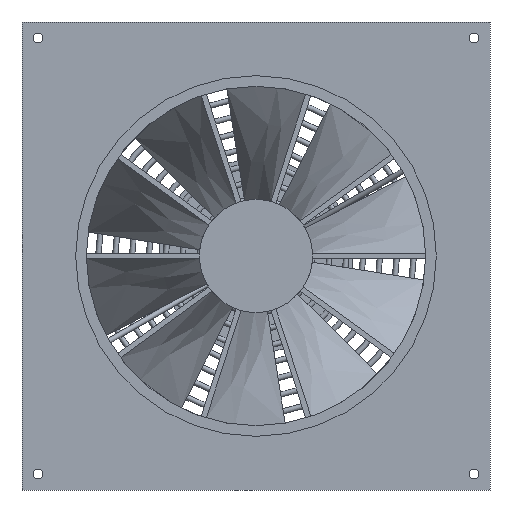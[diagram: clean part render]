
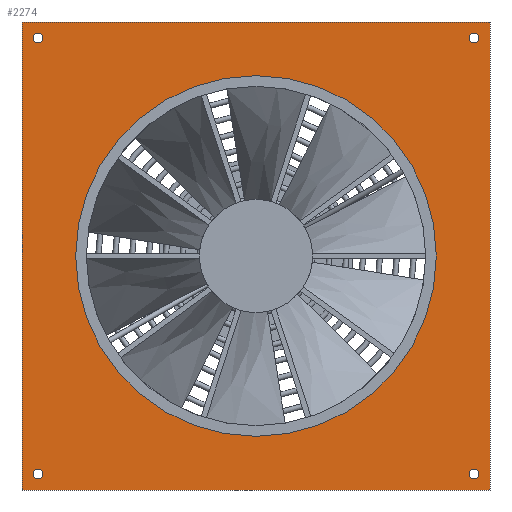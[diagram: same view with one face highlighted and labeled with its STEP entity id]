
A CAD part, front view. The second image highlights one B-rep face of the part: STEP entity #2274.
In plain terms, the highlighted planar face has unit normal (0, -1, 0).
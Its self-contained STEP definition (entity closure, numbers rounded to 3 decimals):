
#135=LINE('',#4995,#273);
#137=LINE('',#5002,#275);
#139=LINE('',#5008,#277);
#140=LINE('',#5010,#278);
#273=VECTOR('',#2845,10.);
#275=VECTOR('',#2853,10.);
#277=VECTOR('',#2859,10.);
#278=VECTOR('',#2862,10.);
#394=PLANE('',#2448);
#560=FACE_BOUND('',#855,.T.);
#561=FACE_BOUND('',#856,.T.);
#562=FACE_BOUND('',#857,.T.);
#563=FACE_BOUND('',#858,.T.);
#564=FACE_BOUND('',#859,.T.);
#688=FACE_OUTER_BOUND('',#854,.T.);
#854=EDGE_LOOP('',(#2125,#2126,#2127,#2128));
#855=EDGE_LOOP('',(#2129));
#856=EDGE_LOOP('',(#2130));
#857=EDGE_LOOP('',(#2131));
#858=EDGE_LOOP('',(#2132));
#859=EDGE_LOOP('',(#2133));
#931=CIRCLE('',#2437,4.5);
#932=CIRCLE('',#2439,4.5);
#933=CIRCLE('',#2441,4.5);
#934=CIRCLE('',#2443,4.5);
#936=CIRCLE('',#2446,169.5);
#1132=VERTEX_POINT('',#4992);
#1133=VERTEX_POINT('',#4994);
#1135=VERTEX_POINT('',#5000);
#1137=VERTEX_POINT('',#5006);
#1151=VERTEX_POINT('',#5153);
#1152=VERTEX_POINT('',#5156);
#1153=VERTEX_POINT('',#5159);
#1154=VERTEX_POINT('',#5162);
#1156=VERTEX_POINT('',#5167);
#1439=EDGE_CURVE('',#1133,#1132,#135,.T.);
#1443=EDGE_CURVE('',#1132,#1135,#137,.T.);
#1446=EDGE_CURVE('',#1135,#1137,#139,.T.);
#1447=EDGE_CURVE('',#1137,#1133,#140,.T.);
#1470=EDGE_CURVE('',#1151,#1151,#931,.T.);
#1471=EDGE_CURVE('',#1152,#1152,#932,.T.);
#1472=EDGE_CURVE('',#1153,#1153,#933,.T.);
#1473=EDGE_CURVE('',#1154,#1154,#934,.T.);
#1475=EDGE_CURVE('',#1156,#1156,#936,.T.);
#2125=ORIENTED_EDGE('',*,*,#1439,.T.);
#2126=ORIENTED_EDGE('',*,*,#1443,.T.);
#2127=ORIENTED_EDGE('',*,*,#1446,.T.);
#2128=ORIENTED_EDGE('',*,*,#1447,.T.);
#2129=ORIENTED_EDGE('',*,*,#1470,.T.);
#2130=ORIENTED_EDGE('',*,*,#1471,.T.);
#2131=ORIENTED_EDGE('',*,*,#1472,.T.);
#2132=ORIENTED_EDGE('',*,*,#1473,.T.);
#2133=ORIENTED_EDGE('',*,*,#1475,.T.);
#2274=ADVANCED_FACE('',(#688,#560,#561,#562,#563,#564),#394,.F.);
#2437=AXIS2_PLACEMENT_3D('',#5154,#2897,#2898);
#2439=AXIS2_PLACEMENT_3D('',#5157,#2901,#2902);
#2441=AXIS2_PLACEMENT_3D('',#5160,#2905,#2906);
#2443=AXIS2_PLACEMENT_3D('',#5163,#2909,#2910);
#2446=AXIS2_PLACEMENT_3D('',#5168,#2915,#2916);
#2448=AXIS2_PLACEMENT_3D('',#5170,#2919,#2920);
#2845=DIRECTION('',(1.,0.,0.));
#2853=DIRECTION('',(0.,0.,1.));
#2859=DIRECTION('',(-1.,0.,0.));
#2862=DIRECTION('',(0.,0.,-1.));
#2897=DIRECTION('center_axis',(0.,1.,0.));
#2898=DIRECTION('ref_axis',(1.,0.,0.));
#2901=DIRECTION('center_axis',(0.,1.,0.));
#2902=DIRECTION('ref_axis',(1.,0.,0.));
#2905=DIRECTION('center_axis',(0.,1.,0.));
#2906=DIRECTION('ref_axis',(1.,0.,0.));
#2909=DIRECTION('center_axis',(0.,1.,0.));
#2910=DIRECTION('ref_axis',(1.,0.,0.));
#2915=DIRECTION('center_axis',(0.,1.,0.));
#2916=DIRECTION('ref_axis',(-1.,0.,0.));
#2919=DIRECTION('center_axis',(0.,1.,0.));
#2920=DIRECTION('ref_axis',(0.,0.,1.));
#4992=CARTESIAN_POINT('',(220.,0.,-220.));
#4994=CARTESIAN_POINT('',(-220.,0.,-220.));
#4995=CARTESIAN_POINT('',(-220.,0.,-220.));
#5000=CARTESIAN_POINT('',(220.,0.,220.));
#5002=CARTESIAN_POINT('',(220.,0.,-220.));
#5006=CARTESIAN_POINT('',(-220.,0.,220.));
#5008=CARTESIAN_POINT('',(220.,0.,220.));
#5010=CARTESIAN_POINT('',(-220.,0.,220.));
#5153=CARTESIAN_POINT('',(-200.5,0.,-205.));
#5154=CARTESIAN_POINT('Origin',(-205.,0.,-205.));
#5156=CARTESIAN_POINT('',(209.5,0.,205.));
#5157=CARTESIAN_POINT('Origin',(205.,0.,205.));
#5159=CARTESIAN_POINT('',(209.5,0.,-205.));
#5160=CARTESIAN_POINT('Origin',(205.,0.,-205.));
#5162=CARTESIAN_POINT('',(-200.5,0.,205.));
#5163=CARTESIAN_POINT('Origin',(-205.,0.,205.));
#5167=CARTESIAN_POINT('',(169.5,0.,0.));
#5168=CARTESIAN_POINT('Origin',(0.,0.,0.));
#5170=CARTESIAN_POINT('Origin',(0.,0.,0.));
